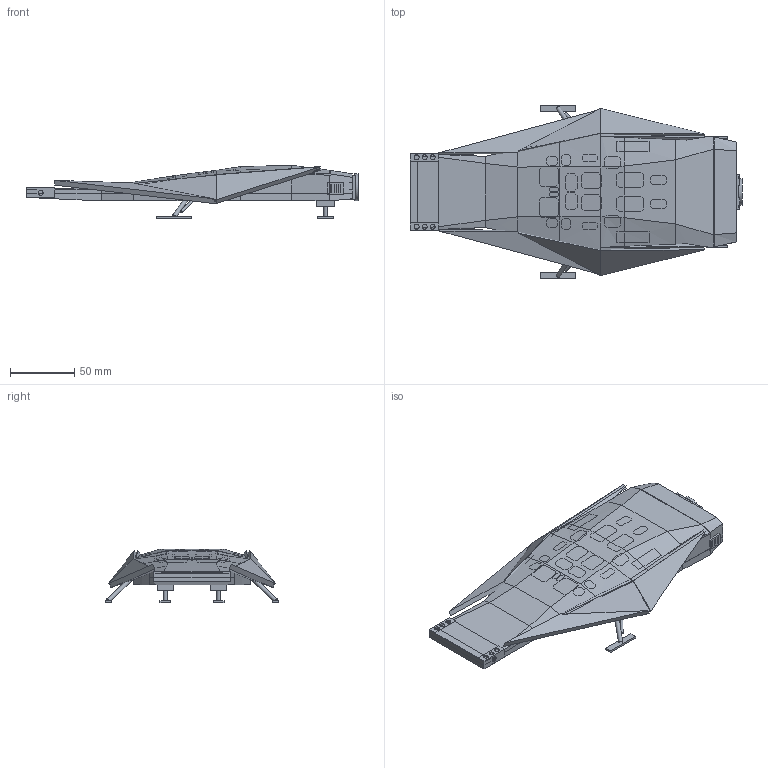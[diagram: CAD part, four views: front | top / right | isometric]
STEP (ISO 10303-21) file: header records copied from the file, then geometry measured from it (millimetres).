
FILE_DESCRIPTION(('Open CASCADE Model'),'2;1');
FILE_NAME('Open CASCADE Shape Model','2026-09-29T03:14:43',('Author'),( 'Open CASCADE'),'Open CASCADE STEP processor 7.9','Open CASCADE 7.9' ,'Unknown');
FILE_SCHEMA(('AUTOMOTIVE_DESIGN { 1 0 10303 214 1 1 1 1 }'));
Length unit declared in the file: millimetre
Products named in the file (8): ranger; upper_fuselage; black_surfaces; windows; hatch; engines; landing_gear; landing_feet
Assembly tree (7 placements, depth 2):
  ranger
    upper_fuselage
    black_surfaces
    windows
    hatch
    engines
    landing_gear
    landing_feet
Bounding box: 258.89 x 135.56 x 41.67 mm (x, y, z)
Volume: 197184.6 mm3; surface area: 140552.2 mm2
Topology: 56 solids, 56 shells, 1395 faces, 3493 edges, 2288 vertices
Faces by surface type: plane 1113, bspline 262, cylinder 20
Full cylindrical faces by diameter (mm): 1.944 x2, 3.056 x2, 3.333 x2, 3.889 x12, 16.667 x1, 20.833 x1
Entity records: 96945 total; most frequent: CARTESIAN_POINT 35604, DIRECTION 7705, ORIENTED_EDGE 6986, PCURVE 6986, DEFINITIONAL_REPRESENTATION 6986, LINE 5279, VECTOR 5279, B_SPLINE_CURVE_WITH_KNOTS 5102
